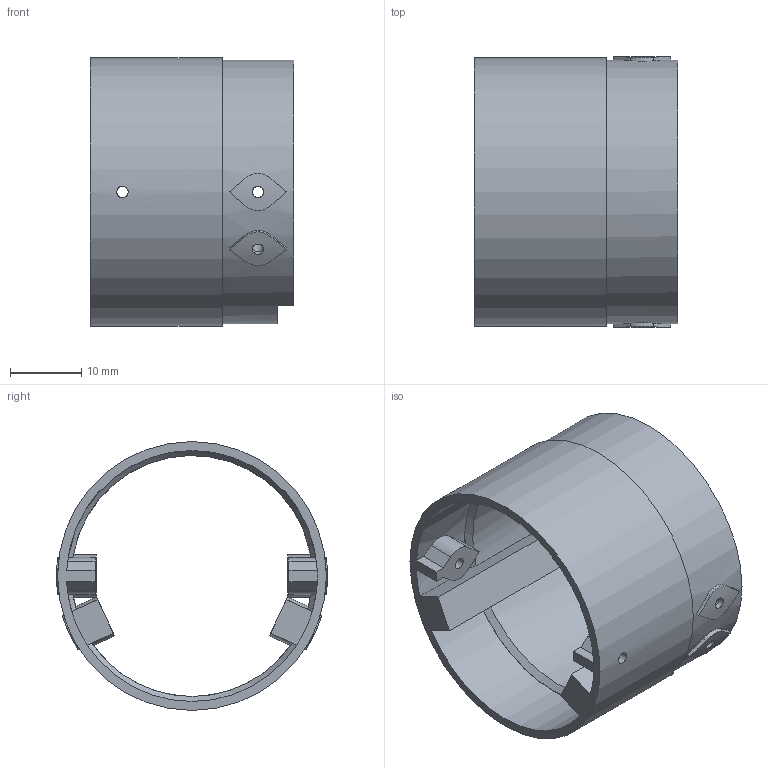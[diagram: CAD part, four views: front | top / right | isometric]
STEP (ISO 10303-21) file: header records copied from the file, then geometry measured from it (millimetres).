
FILE_DESCRIPTION(('SkyG Speed 90B - revision C6B-7 - 2026-10-08','TC-tail-coupler'),'2;1');
FILE_NAME('TC-tail-coupler_C6B-7','2026-10-08T18:09:16',('Author'),( 'Open CASCADE'),'Open CASCADE STEP processor 7.9','Open CASCADE 7.9' ,'Unknown');
FILE_SCHEMA(('AUTOMOTIVE_DESIGN { 1 0 10303 214 1 1 1 1 }'));
Length unit declared in the file: millimetre
Products named in the file (1): TC-tail-coupler C6B-7
Bounding box: 28.5 x 38 x 37.7 mm (x, y, z)
Volume: 6462.9 mm3; surface area: 7697.8 mm2
Topology: 1 solids, 1 shells, 102 faces, 291 edges, 191 vertices
Faces by surface type: plane 61, cylinder 39, cone 2
Full cylindrical faces by diameter (mm): 1.6 x10, 33.8 x1, 37 x1, 37.7 x1
Entity records: 9893 total; most frequent: CARTESIAN_POINT 4465, DIRECTION 904, ORIENTED_EDGE 582, PCURVE 582, DEFINITIONAL_REPRESENTATION 582, LINE 380, VECTOR 380, EDGE_CURVE 291
